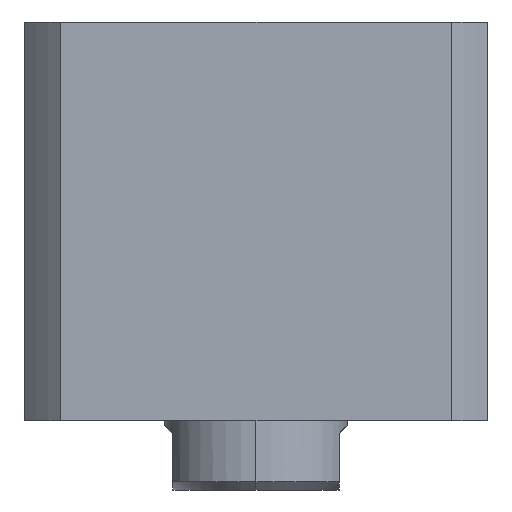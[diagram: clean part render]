
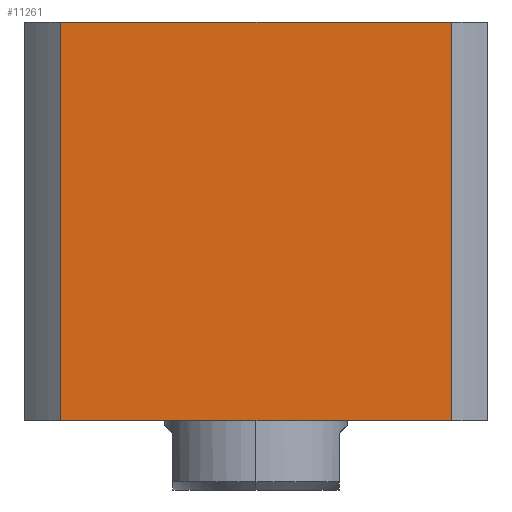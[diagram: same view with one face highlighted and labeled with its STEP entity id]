
A CAD part, front view. The second image highlights one B-rep face of the part: STEP entity #11261.
In plain terms, the highlighted planar face has unit normal (0, -1, 0) as drawn and (-1, 0, 0) by its records, which use the part's own axes.
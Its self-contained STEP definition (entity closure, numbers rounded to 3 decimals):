
#157 = CARTESIAN_POINT ( 'NONE',  ( -57., -47.971, 0. ) ) ;
#347 = EDGE_LOOP ( 'NONE', ( #2034, #5835, #14563, #6002 ) ) ;
#957 = CARTESIAN_POINT ( 'NONE',  ( -57., -47.971, -202. ) ) ;
#1351 = CARTESIAN_POINT ( 'NONE',  ( -57., 57., 0. ) ) ;
#1898 = EDGE_CURVE ( 'NONE', #3520, #12288, #2335, .T. ) ;
#2034 = ORIENTED_EDGE ( 'NONE', *, *, #1898, .F. ) ;
#2278 = VECTOR ( 'NONE', #12854, 1000. ) ;
#2335 = LINE ( 'NONE', #13563, #14494 ) ;
#3501 = AXIS2_PLACEMENT_3D ( 'NONE', #5756, #6937, #15213 ) ;
#3520 = VERTEX_POINT ( 'NONE', #8986 ) ;
#3945 = EDGE_CURVE ( 'NONE', #3520, #14568, #14092, .T. ) ;
#4601 = CARTESIAN_POINT ( 'NONE',  ( -57., 57., 98. ) ) ;
#5134 = EDGE_CURVE ( 'NONE', #12288, #9143, #8509, .T. ) ;
#5400 = VECTOR ( 'NONE', #9542, 1000. ) ;
#5756 = CARTESIAN_POINT ( 'NONE',  ( -57., 57., 98. ) ) ;
#5835 = ORIENTED_EDGE ( 'NONE', *, *, #3945, .T. ) ;
#6002 = ORIENTED_EDGE ( 'NONE', *, *, #5134, .F. ) ;
#6149 = CARTESIAN_POINT ( 'NONE',  ( -57., -47.971, 98. ) ) ;
#6817 = EDGE_CURVE ( 'NONE', #9143, #14568, #10093, .T. ) ;
#6937 = DIRECTION ( 'NONE',  ( 1., 0., 0. ) ) ;
#8509 = LINE ( 'NONE', #4601, #2278 ) ;
#8986 = CARTESIAN_POINT ( 'NONE',  ( -57., 47.971, 0. ) ) ;
#9142 = DIRECTION ( 'NONE',  ( 0., 0., -1. ) ) ;
#9143 = VERTEX_POINT ( 'NONE', #6149 ) ;
#9542 = DIRECTION ( 'NONE',  ( 0., -1., 0. ) ) ;
#10093 = LINE ( 'NONE', #957, #13640 ) ;
#11261 = ADVANCED_FACE ( 'NONE', ( #13486 ), #12828, .F. ) ;
#12288 = VERTEX_POINT ( 'NONE', #12810 ) ;
#12810 = CARTESIAN_POINT ( 'NONE',  ( -57., 47.971, 98. ) ) ;
#12828 = PLANE ( 'NONE',  #3501 ) ;
#12854 = DIRECTION ( 'NONE',  ( 0., -1., 0. ) ) ;
#13486 = FACE_OUTER_BOUND ( 'NONE', #347, .T. ) ;
#13563 = CARTESIAN_POINT ( 'NONE',  ( -57., 47.971, -202. ) ) ;
#13640 = VECTOR ( 'NONE', #9142, 1000. ) ;
#13930 = DIRECTION ( 'NONE',  ( 0., 0., 1. ) ) ;
#14092 = LINE ( 'NONE', #1351, #5400 ) ;
#14494 = VECTOR ( 'NONE', #13930, 1000. ) ;
#14563 = ORIENTED_EDGE ( 'NONE', *, *, #6817, .F. ) ;
#14568 = VERTEX_POINT ( 'NONE', #157 ) ;
#15213 = DIRECTION ( 'NONE',  ( 0., 1., 0. ) ) ;
